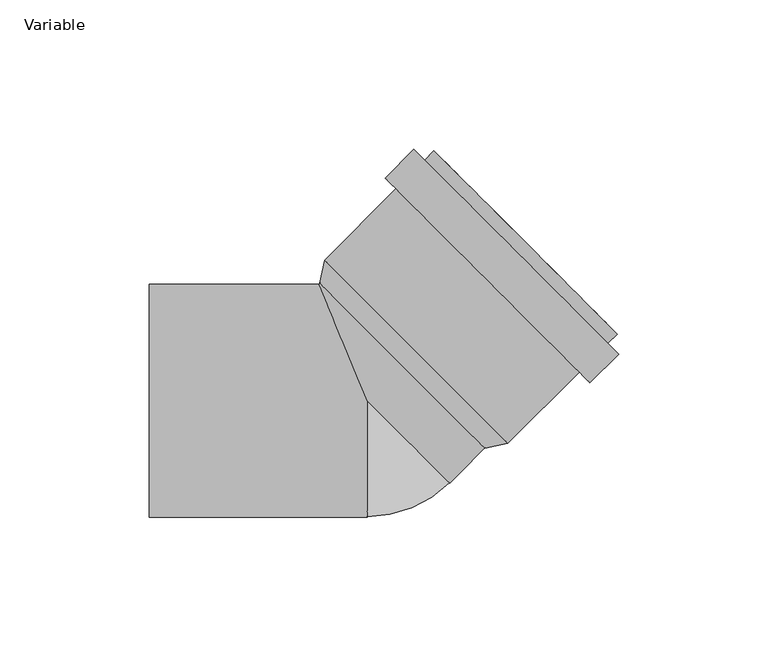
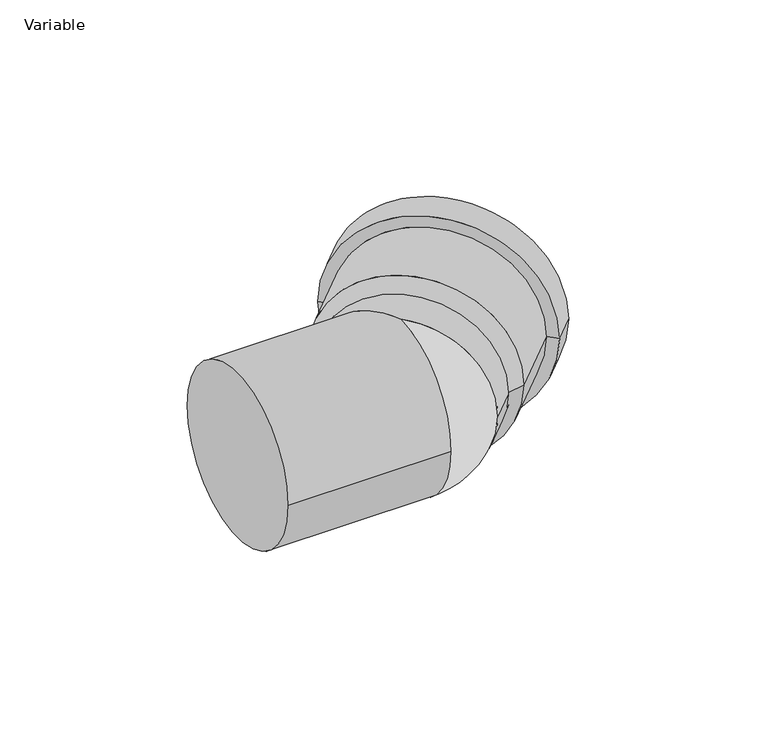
"""IFC4 building model written with IfcOpenShell, lengths in millimetres: pipe fitting geometry, AliaxisFR_Friaphon_ElbowMF_FR : Variable."""

from ifc_helpers import new_model, si_unit, point, frame, origin, place, context, project, spatial, polyline, circle_curve, ellipse_curve, trimmed, source, transform, mapped, element, save
from ifc_brep_helpers import plane_surface, cylinder_surface, revolved_surface, advanced_brep


def variable_4cadafa7(model_context):
    return source(origin(), model_context, "Body", "AdvancedBrep", [
        advanced_brep(
        [(83.7214429, 22.3445743, 0.0), (22.3445743, 83.7214429, 0.0), (25.4558441, 80.6101731, 0.0), (80.6101731, 25.4558441, 0.0), (74.5997654, 6.0104076, 0.0), (6.0104076, 74.5997654, 0.0), (15.6270599, 84.2164176, 0.0), (84.2164176, 15.6270599, 0.0), (70.9935208, 9.6166522, 0.0), (9.6166522, 70.9935208, 0.0), (47.0933116, -14.283557, 0.0), (-14.283557, 47.0933116, 0.0), (-15.8391919, 39.315137, 0.0), (39.315137, -15.8391919, 0.0), (80.6101731, 19.2333044, 0.0), (19.2333044, 80.6101731, 0.0)],
        [
            (0, 1, circle_curve(frame((53.0330086, 53.0330086, 0.0), z_axis=(0.707106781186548, 0.7071067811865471, 0.0), x_axis=(-0.7071067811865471, 0.707106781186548, 0.0)), 43.4)),
            (1, 2),
            (2, 3, circle_curve(frame((53.0330086, 53.0330086, 0.0), z_axis=(-0.707106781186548, -0.7071067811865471, 0.0), x_axis=(-0.7071067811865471, 0.707106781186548, 0.0)), 39.0)),
            (3, 0),
            (1, 0, circle_curve(frame((53.0330086, 53.0330086, 0.0), z_axis=(0.707106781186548, 0.7071067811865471, 0.0), x_axis=(-0.7071067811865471, 0.707106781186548, 0.0)), 43.4)),
            (3, 2, circle_curve(frame((53.0330086, 53.0330086, 0.0), z_axis=(-0.707106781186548, -0.7071067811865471, 0.0), x_axis=(-0.7071067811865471, 0.707106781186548, 0.0)), 39.0)),
            (4, 5, circle_curve(frame((40.3050865, 40.3050865, 0.0), z_axis=(0.707106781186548, 0.7071067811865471, 0.0), x_axis=(-0.7071067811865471, 0.707106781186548, 0.0)), 48.5)),
            (5, 6),
            (6, 7, circle_curve(frame((49.9217388, 49.9217388, 0.0), z_axis=(-0.707106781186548, -0.7071067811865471, 0.0), x_axis=(-0.7071067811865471, 0.707106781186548, 0.0)), 48.5)),
            (7, 4),
            (5, 4, circle_curve(frame((40.3050865, 40.3050865, 0.0), z_axis=(0.707106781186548, 0.7071067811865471, 0.0), x_axis=(-0.7071067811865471, 0.707106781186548, 0.0)), 48.5)),
            (7, 6, circle_curve(frame((49.9217388, 49.9217388, 0.0), z_axis=(-0.707106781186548, -0.7071067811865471, 0.0), x_axis=(-0.7071067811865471, 0.707106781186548, 0.0)), 48.5)),
            (8, 9, circle_curve(frame((40.3050865, 40.3050865, 0.0), z_axis=(0.707106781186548, 0.7071067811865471, 0.0), x_axis=(-0.7071067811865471, 0.707106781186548, 0.0)), 43.4)),
            (9, 5),
            (4, 8),
            (9, 8, circle_curve(frame((40.3050865, 40.3050865, 0.0), z_axis=(0.707106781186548, 0.7071067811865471, 0.0), x_axis=(-0.7071067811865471, 0.707106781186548, 0.0)), 43.4)),
            (10, 11, circle_curve(frame((16.4048773, 16.4048773, 0.0), z_axis=(0.707106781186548, 0.7071067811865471, 0.0), x_axis=(-0.7071067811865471, 0.707106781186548, 0.0)), 43.4)),
            (11, 9),
            (8, 10),
            (11, 10, circle_curve(frame((16.4048773, 16.4048773, 0.0), z_axis=(0.707106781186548, 0.7071067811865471, 0.0), x_axis=(-0.7071067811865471, 0.707106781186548, 0.0)), 43.4)),
            (2, 12),
            (12, 13, circle_curve(frame((11.7379726, 11.7379726, 0.0), z_axis=(-0.707106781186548, -0.7071067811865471, 0.0), x_axis=(-0.7071067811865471, 0.707106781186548, 0.0)), 39.0)),
            (13, 3),
            (13, 12, circle_curve(frame((11.7379726, 11.7379726, 0.0), z_axis=(-0.707106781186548, -0.7071067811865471, 0.0), x_axis=(-0.7071067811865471, 0.707106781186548, 0.0)), 39.0)),
            (12, 11),
            (10, 13),
            (14, 15, circle_curve(frame((49.9217388, 49.9217388, 0.0), z_axis=(0.707106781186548, 0.7071067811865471, 0.0), x_axis=(-0.7071067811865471, 0.707106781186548, 0.0)), 43.4)),
            (15, 1),
            (0, 14),
            (15, 14, circle_curve(frame((49.9217388, 49.9217388, 0.0), z_axis=(0.707106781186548, 0.7071067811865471, 0.0), x_axis=(-0.7071067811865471, 0.707106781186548, 0.0)), 43.4)),
            (6, 15),
            (14, 7),
        ],
        [
            plane_surface(frame((53.0330086, 53.0330086, 0.0), z_axis=(0.707106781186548, 0.7071067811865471, 0.0), x_axis=(-0.7071067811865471, 0.707106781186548, 0.0))),
            cylinder_surface(frame((11.7379726, 11.7379726, 0.0), z_axis=(-0.707106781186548, -0.7071067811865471, 0.0), x_axis=(-0.7071067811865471, 0.707106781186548, 0.0)), 48.5),
            plane_surface(frame((40.3050865, 40.3050865, 0.0), z_axis=(-0.707106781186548, -0.7071067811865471, 0.0), x_axis=(-0.7071067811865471, 0.707106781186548, 0.0))),
            cylinder_surface(frame((11.7379726, 11.7379726, 0.0), z_axis=(-0.707106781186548, -0.7071067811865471, 0.0), x_axis=(-0.7071067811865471, 0.707106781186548, 0.0)), 43.4),
            revolved_surface(polyline([(-15.839191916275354, 39.31513701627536, 0.0), (25.45584413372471, 80.61017306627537, 0.0)]), (11.7379726, 11.7379726, 0.0), (-0.707106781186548, -0.7071067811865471, 0.0)),
            revolved_surface(polyline([(-14.283557, 47.0933116, 0.0), (-15.8391919, 39.315137, 0.0)]), (11.7379726, 11.7379726, 0.0), (-0.707106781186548, -0.7071067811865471, 0.0)),
            plane_surface(frame((49.9217388, 49.9217388, 0.0), z_axis=(0.707106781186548, 0.7071067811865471, 0.0), x_axis=(-0.7071067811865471, 0.707106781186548, 0.0))),
        ],
        [
            (0, [[1, 2, 3, 4]]),
            (0, [[5, -4, 6, -2]]),
            (1, [[7, 8, 9, 10]]),
            (1, [[11, -10, 12, -8]]),
            (2, [[13, 14, -7, 15]]),
            (2, [[16, -15, -11, -14]]),
            (3, [[17, 18, -13, 19]]),
            (3, [[20, -19, -16, -18]]),
            (4, [[-3, 21, 22, 23]]),
            (4, [[-6, -23, 24, -21]]),
            (5, [[-22, 25, -17, 26]]),
            (5, [[-24, -26, -20, -25]]),
            (3, [[27, 28, -1, 29]]),
            (3, [[30, -29, -5, -28]]),
            (6, [[-9, 31, -27, 32]]),
            (6, [[-12, -32, -30, -31]]),
        ],
    ),
        advanced_brep(
        [(-12.7279221, 42.4264069, 0.0), (42.4264069, -12.7279221, 0.0), (27.5771645, -27.5771645, 0.0), (-16.1543289, 39.0, 0.0), (0.0, 0.0, 39.0), (0.0, 0.0, -39.0), (-73.0, -39.0, 0.0), (-73.0, 39.0, 0.0), (0.0, -39.0, 0.0)],
        [
            (0, 1, circle_curve(frame((14.8492424, 14.8492424, 0.0), z_axis=(0.7071067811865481, 0.707106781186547, 0.0), x_axis=(-0.707106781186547, 0.7071067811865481, 0.0)), 39.0)),
            (1, 0, circle_curve(frame((14.8492424, 14.8492424, 0.0), z_axis=(0.7071067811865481, 0.707106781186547, 0.0), x_axis=(-0.707106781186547, 0.7071067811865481, 0.0)), 39.0)),
            (2, 1),
            (0, 3),
            (3, 4, ellipse_curve(frame((0.0, 0.0, 0.0), z_axis=(0.923879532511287, 0.38268343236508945, 0.0), x_axis=(0.38268343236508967, -0.923879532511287, 0.0)), 42.2132958, 39.0)),
            (4, 2, circle_curve(frame((0.0, 0.0, 0.0), z_axis=(0.7071067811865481, 0.707106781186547, 0.0), x_axis=(-0.707106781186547, 0.7071067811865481, 0.0)), 39.0)),
            (2, 5, circle_curve(frame((0.0, 0.0, 0.0), z_axis=(0.7071067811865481, 0.707106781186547, 0.0), x_axis=(-0.707106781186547, 0.7071067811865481, 0.0)), 39.0)),
            (5, 3, ellipse_curve(frame((0.0, 0.0, 0.0), z_axis=(0.923879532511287, 0.38268343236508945, 0.0), x_axis=(0.38268343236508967, -0.923879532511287, 0.0)), 42.2132958, 39.0)),
            (6, 7, circle_curve(frame((-73.0, 0.0, 0.0), z_axis=(-1.0, 0.0, 0.0), x_axis=(0.0, 1.0, 0.0)), 39.0)),
            (7, 6, circle_curve(frame((-73.0, 0.0, 0.0), z_axis=(-1.0, 0.0, 0.0), x_axis=(0.0, 1.0, 0.0)), 39.0)),
            (6, 8),
            (8, 4, circle_curve(frame((0.0, 0.0, 0.0), z_axis=(-1.0, 0.0, 0.0), x_axis=(0.0, 1.0, 0.0)), 39.0)),
            (3, 7),
            (5, 8, circle_curve(frame((0.0, 0.0, 0.0), z_axis=(-1.0, 0.0, 0.0), x_axis=(0.0, 1.0, 0.0)), 39.0)),
        ],
        [
            plane_surface(frame((14.8492424, 14.8492424, 0.0), z_axis=(0.7071067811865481, 0.707106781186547, 0.0), x_axis=(0.0, 0.0, 1.0))),
            cylinder_surface(frame((0.0, 0.0, 0.0), z_axis=(-0.7071067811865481, -0.707106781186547, 0.0), x_axis=(-0.707106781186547, 0.7071067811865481, 0.0)), 39.0),
            plane_surface(frame((-73.0, 0.0, 0.0), z_axis=(-1.0, 0.0, 0.0), x_axis=(0.0, 0.0, 1.0))),
            cylinder_surface(frame((-73.0, 0.0, 0.0), z_axis=(-1.0, 0.0, 0.0), x_axis=(0.0, 1.0, 0.0)), 39.0),
            revolved_surface(trimmed(ellipse_curve(frame((0.0, 0.0, 0.0), z_axis=(0.7071067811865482, 0.707106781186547, 0.0), x_axis=(-0.707106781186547, 0.7071067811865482, 0.0)), 39.0, 39.0), [point((0.0, 0.0, 39.0))], [point((0.0, 0.0, -39.0))], True, "CARTESIAN"), (0.0, 0.0, 39.0), (0.0, 0.0, -1.0)),
        ],
        [
            (0, [[1, 2]]),
            (1, [[3, -1, 4, 5, 6]]),
            (1, [[-2, -3, 7, 8, -4]]),
            (2, [[9, 10]]),
            (3, [[-9, 11, 12, -5, 13]]),
            (3, [[-10, -13, -8, 14, -11]]),
            (4, [[-12, -14, -7, -6]]),
        ],
    ),
    ])


if __name__ == "__main__":
    model = new_model("IFC4")
    model_context = context("Model", 3, world=origin())
    ifc_project = project(units=[si_unit("LENGTHUNIT", "METRE", prefix="MILLI")], contexts=[model_context])
    site = spatial("IfcSite", under=ifc_project)
    building = spatial("IfcBuilding", under=site)
    placement = place(None, origin())
    variable_shape = variable_4cadafa7(model_context)
    element("IfcPipeFitting", 1, ObjectType="AliaxisFR_Friaphon_ElbowMF_FR : Variable", at=placement, inside=building, context=model_context, shape_type="MappedRepresentation", body=[
        mapped(variable_shape, transform((0.0, 0.0, 0.0), x_axis=(1.0, 0.0, 0.0), y_axis=(0.0, 1.0, 0.0), z_axis=(0.0, 0.0, 1.0))),
    ])
    save(model, "model.ifc")
